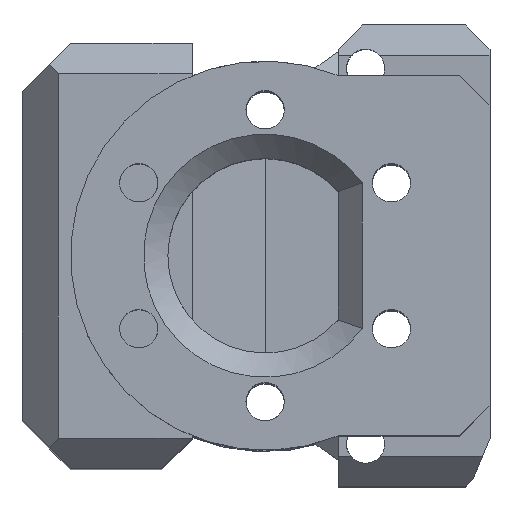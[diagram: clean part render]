
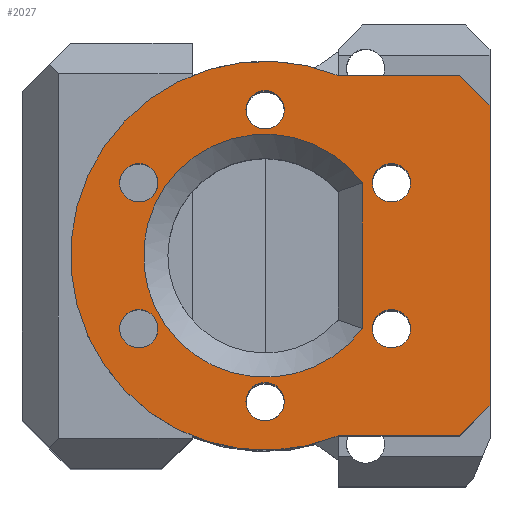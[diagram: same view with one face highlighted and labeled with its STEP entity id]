
A CAD part, top view. The second image highlights one B-rep face of the part: STEP entity #2027.
In plain terms, the highlighted planar face has unit normal (0, 0, 1).
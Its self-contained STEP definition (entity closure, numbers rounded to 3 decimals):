
#110=FACE_BOUND('',#354,.T.);
#111=FACE_BOUND('',#355,.T.);
#112=FACE_BOUND('',#356,.T.);
#113=FACE_BOUND('',#357,.T.);
#114=FACE_BOUND('',#358,.T.);
#115=FACE_BOUND('',#359,.T.);
#116=FACE_BOUND('',#360,.T.);
#151=CIRCLE('',#2179,20.);
#154=CIRCLE('',#2185,32.);
#155=CIRCLE('',#2186,3.15);
#156=CIRCLE('',#2187,3.15);
#157=CIRCLE('',#2188,3.15);
#158=CIRCLE('',#2189,3.15);
#159=CIRCLE('',#2190,3.15);
#160=CIRCLE('',#2191,3.15);
#236=FACE_OUTER_BOUND('',#353,.T.);
#353=EDGE_LOOP('',(#1558,#1559,#1560,#1561,#1562,#1563));
#354=EDGE_LOOP('',(#1564));
#355=EDGE_LOOP('',(#1565));
#356=EDGE_LOOP('',(#1566));
#357=EDGE_LOOP('',(#1567));
#358=EDGE_LOOP('',(#1568));
#359=EDGE_LOOP('',(#1569));
#360=EDGE_LOOP('',(#1570,#1571));
#518=LINE('',#3161,#707);
#521=LINE('',#3169,#710);
#522=LINE('',#3171,#711);
#523=LINE('',#3175,#712);
#524=LINE('',#3177,#713);
#525=LINE('',#3178,#714);
#707=VECTOR('',#2549,10.);
#710=VECTOR('',#2558,10.);
#711=VECTOR('',#2559,10.);
#712=VECTOR('',#2562,10.);
#713=VECTOR('',#2563,10.);
#714=VECTOR('',#2564,10.);
#904=VERTEX_POINT('',#3145);
#905=VERTEX_POINT('',#3146);
#908=VERTEX_POINT('',#3167);
#909=VERTEX_POINT('',#3168);
#910=VERTEX_POINT('',#3170);
#911=VERTEX_POINT('',#3172);
#912=VERTEX_POINT('',#3174);
#913=VERTEX_POINT('',#3176);
#914=VERTEX_POINT('',#3179);
#915=VERTEX_POINT('',#3181);
#916=VERTEX_POINT('',#3183);
#917=VERTEX_POINT('',#3185);
#918=VERTEX_POINT('',#3187);
#919=VERTEX_POINT('',#3189);
#1140=EDGE_CURVE('',#904,#905,#151,.T.);
#1145=EDGE_CURVE('',#905,#904,#518,.T.);
#1149=EDGE_CURVE('',#908,#909,#521,.T.);
#1150=EDGE_CURVE('',#910,#908,#522,.T.);
#1151=EDGE_CURVE('',#910,#911,#154,.T.);
#1152=EDGE_CURVE('',#912,#911,#523,.T.);
#1153=EDGE_CURVE('',#913,#912,#524,.T.);
#1154=EDGE_CURVE('',#909,#913,#525,.T.);
#1155=EDGE_CURVE('',#914,#914,#155,.T.);
#1156=EDGE_CURVE('',#915,#915,#156,.T.);
#1157=EDGE_CURVE('',#916,#916,#157,.T.);
#1158=EDGE_CURVE('',#917,#917,#158,.T.);
#1159=EDGE_CURVE('',#918,#918,#159,.T.);
#1160=EDGE_CURVE('',#919,#919,#160,.T.);
#1558=ORIENTED_EDGE('',*,*,#1149,.F.);
#1559=ORIENTED_EDGE('',*,*,#1150,.F.);
#1560=ORIENTED_EDGE('',*,*,#1151,.T.);
#1561=ORIENTED_EDGE('',*,*,#1152,.F.);
#1562=ORIENTED_EDGE('',*,*,#1153,.F.);
#1563=ORIENTED_EDGE('',*,*,#1154,.F.);
#1564=ORIENTED_EDGE('',*,*,#1155,.T.);
#1565=ORIENTED_EDGE('',*,*,#1156,.T.);
#1566=ORIENTED_EDGE('',*,*,#1157,.T.);
#1567=ORIENTED_EDGE('',*,*,#1158,.T.);
#1568=ORIENTED_EDGE('',*,*,#1159,.T.);
#1569=ORIENTED_EDGE('',*,*,#1160,.T.);
#1570=ORIENTED_EDGE('',*,*,#1140,.F.);
#1571=ORIENTED_EDGE('',*,*,#1145,.F.);
#1949=PLANE('',#2184);
#2027=ADVANCED_FACE('',(#236,#110,#111,#112,#113,#114,#115,#116),#1949,
 .T.);
#2179=AXIS2_PLACEMENT_3D('',#3147,#2542,#2543);
#2184=AXIS2_PLACEMENT_3D('',#3166,#2556,#2557);
#2185=AXIS2_PLACEMENT_3D('',#3173,#2560,#2561);
#2186=AXIS2_PLACEMENT_3D('',#3180,#2565,#2566);
#2187=AXIS2_PLACEMENT_3D('',#3182,#2567,#2568);
#2188=AXIS2_PLACEMENT_3D('',#3184,#2569,#2570);
#2189=AXIS2_PLACEMENT_3D('',#3186,#2571,#2572);
#2190=AXIS2_PLACEMENT_3D('',#3188,#2573,#2574);
#2191=AXIS2_PLACEMENT_3D('',#3190,#2575,#2576);
#2542=DIRECTION('center_axis',(0.,0.,1.));
#2543=DIRECTION('ref_axis',(-1.,0.,0.));
#2549=DIRECTION('',(0.,1.,0.));
#2556=DIRECTION('center_axis',(0.,0.,1.));
#2557=DIRECTION('ref_axis',(1.,0.,0.));
#2558=DIRECTION('',(0.707,-0.707,0.));
#2559=DIRECTION('',(1.,0.,0.));
#2560=DIRECTION('center_axis',(0.,0.,1.));
#2561=DIRECTION('ref_axis',(1.,0.,0.));
#2562=DIRECTION('',(-1.,0.,0.));
#2563=DIRECTION('',(-0.707,-0.707,0.));
#2564=DIRECTION('',(0.,-1.,0.));
#2565=DIRECTION('center_axis',(0.,0.,-1.));
#2566=DIRECTION('ref_axis',(1.,0.,0.));
#2567=DIRECTION('center_axis',(0.,0.,-1.));
#2568=DIRECTION('ref_axis',(1.,0.,0.));
#2569=DIRECTION('center_axis',(0.,0.,-1.));
#2570=DIRECTION('ref_axis',(1.,0.,0.));
#2571=DIRECTION('center_axis',(0.,0.,-1.));
#2572=DIRECTION('ref_axis',(1.,0.,0.));
#2573=DIRECTION('center_axis',(0.,0.,-1.));
#2574=DIRECTION('ref_axis',(1.,0.,0.));
#2575=DIRECTION('center_axis',(0.,0.,-1.));
#2576=DIRECTION('ref_axis',(1.,0.,0.));
#3145=CARTESIAN_POINT('',(248.647,-114.412,150.));
#3146=CARTESIAN_POINT('',(248.647,-138.412,150.));
#3147=CARTESIAN_POINT('Origin',(232.647,-126.412,150.));
#3161=CARTESIAN_POINT('',(248.647,-111.579,150.));
#3166=CARTESIAN_POINT('Origin',(232.647,-126.412,150.));
#3167=CARTESIAN_POINT('',(264.647,-96.747,150.));
#3168=CARTESIAN_POINT('',(269.647,-101.747,150.));
#3169=CARTESIAN_POINT('',(265.313,-97.413,150.));
#3170=CARTESIAN_POINT('',(244.647,-96.747,150.));
#3171=CARTESIAN_POINT('',(263.397,-96.747,150.));
#3172=CARTESIAN_POINT('',(244.647,-156.077,150.));
#3173=CARTESIAN_POINT('Origin',(232.647,-126.412,150.));
#3174=CARTESIAN_POINT('',(264.647,-156.077,150.));
#3175=CARTESIAN_POINT('',(250.897,-156.077,150.));
#3176=CARTESIAN_POINT('',(269.647,-151.077,150.));
#3177=CARTESIAN_POINT('',(265.313,-155.41,150.));
#3178=CARTESIAN_POINT('',(269.647,-141.244,150.));
#3179=CARTESIAN_POINT('',(208.712,-138.412,150.));
#3180=CARTESIAN_POINT('Origin',(211.862,-138.412,150.));
#3181=CARTESIAN_POINT('',(229.497,-102.412,150.));
#3182=CARTESIAN_POINT('Origin',(232.647,-102.412,150.));
#3183=CARTESIAN_POINT('',(208.712,-114.412,150.));
#3184=CARTESIAN_POINT('Origin',(211.862,-114.412,150.));
#3185=CARTESIAN_POINT('',(229.497,-150.412,150.));
#3186=CARTESIAN_POINT('Origin',(232.647,-150.412,150.));
#3187=CARTESIAN_POINT('',(250.282,-138.412,150.));
#3188=CARTESIAN_POINT('Origin',(253.432,-138.412,150.));
#3189=CARTESIAN_POINT('',(250.282,-114.412,150.));
#3190=CARTESIAN_POINT('Origin',(253.432,-114.412,150.));
